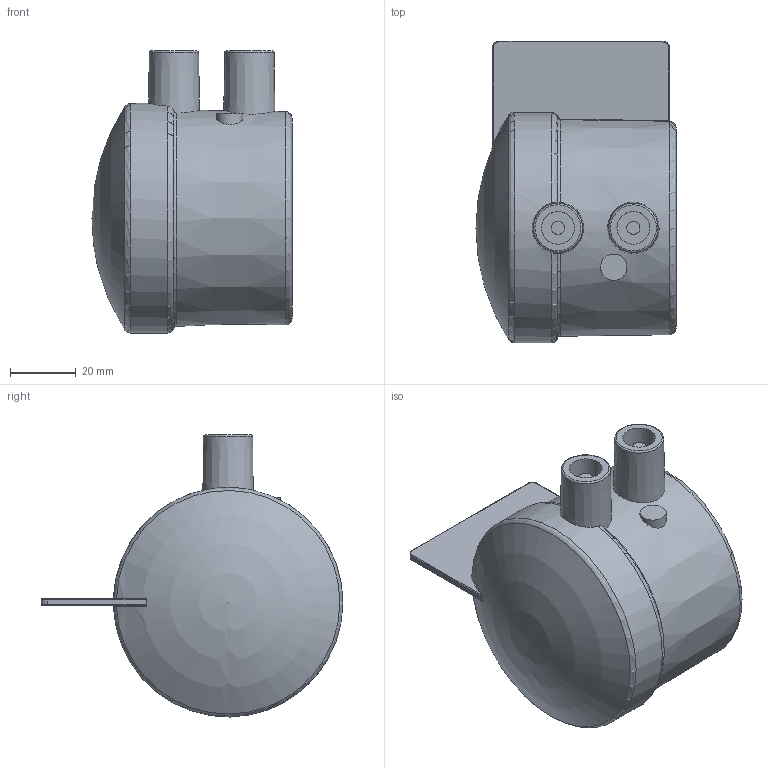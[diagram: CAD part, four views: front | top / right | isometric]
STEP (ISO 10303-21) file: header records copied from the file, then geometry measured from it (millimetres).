
FILE_DESCRIPTION(/* description */ ('Unknown'),/* implementation_level */ '2;1');
FILE_NAME(/* name */ 'CAEP050C',/* time_stamp */ '2021-02-11T10:13:09+01:00',/* author */ ('Unknown'),/* organization */ ('Unknown'),/* preprocessor_version */ 'ST-DEVELOPER v16.7',/* originating_system */ 'Solid Edge',/* authorisation */ 'Unknown');
FILE_SCHEMA (('AUTOMOTIVE_DESIGN {1 0 10303 214 3 1 1}'));
Length unit declared in the file: millimetre
Products named in the file (1): CAEP050C
Bounding box: 61 x 92 x 86 mm (x, y, z)
Volume: 108322.1 mm3; surface area: 30864.8 mm2
Topology: 1 solids, 1 shells, 70 faces, 163 edges, 100 vertices
Faces by surface type: plane 17, cylinder 17, torus 15, bspline 15, cone 5, sphere 1
Full cylindrical faces by diameter (mm): 4 x2, 8 x1, 10 x2, 50 x1
Entity records: 2058 total; most frequent: CARTESIAN_POINT 657, ORIENTED_EDGE 278, DIRECTION 270, EDGE_CURVE 139, AXIS2_PLACEMENT_3D 122, VERTEX_POINT 90, FACE_BOUND 89, EDGE_LOOP 88
